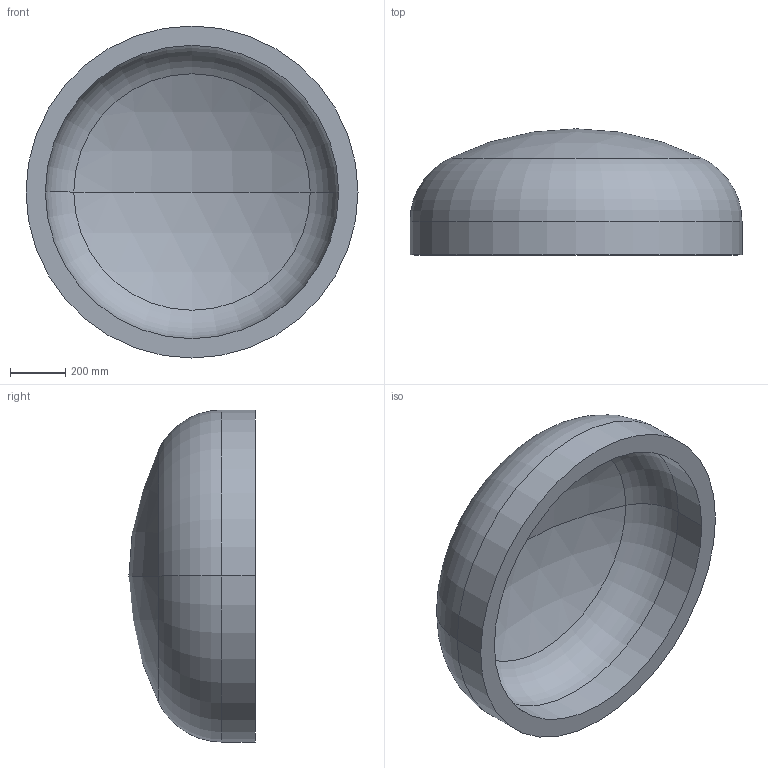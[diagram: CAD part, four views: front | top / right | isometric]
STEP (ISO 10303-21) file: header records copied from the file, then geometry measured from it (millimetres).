
FILE_DESCRIPTION (( 'STEP AP203' ), '1' );
FILE_NAME ('DIN 28013 Korbbogenform_-_Boden DIN 28013 - 1200 x 120 - I - s=70.step', '2016-07-01T09:33:48', ( '' ), ( '' ), 'SwSTEP 2.0', 'SolidWorks 2013', '' );
FILE_SCHEMA (( 'CONFIG_CONTROL_DESIGN' ));
Length unit declared in the file: millimetre
Products named in the file (1): DIN 28013 Korbbogenform_-_Boden DIN 28013 - 1200 x 120 - I - s=70
Bounding box: 1200 x 456.03 x 1200 mm (x, y, z)
Volume: 131622043.7 mm3; surface area: 4019391.5 mm2
Topology: 1 solids, 1 shells, 13 faces, 24 edges, 14 vertices
Faces by surface type: torus 4, cylinder 4, sphere 4, plane 1
Entity records: 407 total; most frequent: DIRECTION 72, CARTESIAN_POINT 52, ORIENTED_EDGE 48, AXIS2_PLACEMENT_3D 34, EDGE_CURVE 24, CIRCLE 20, EDGE_LOOP 14, VERTEX_POINT 14
